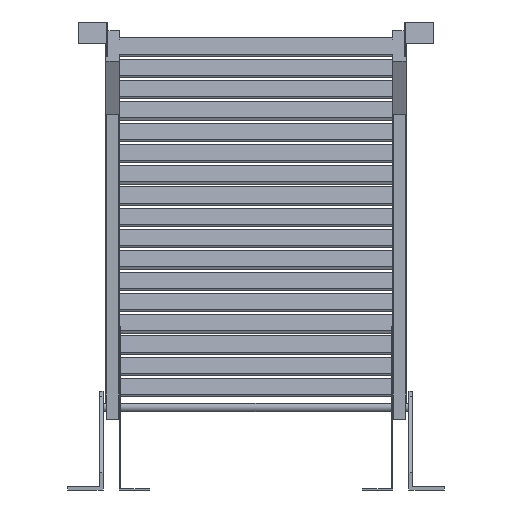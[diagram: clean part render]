
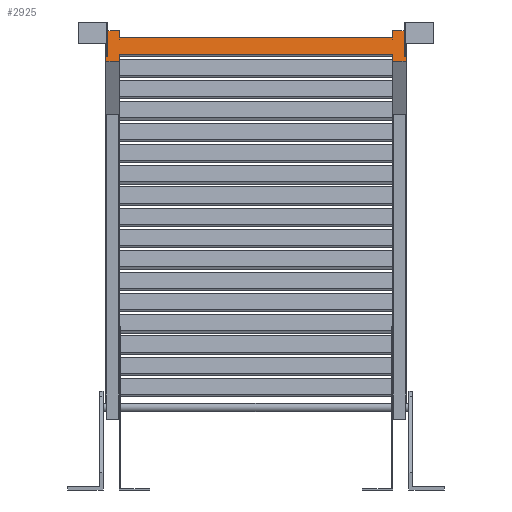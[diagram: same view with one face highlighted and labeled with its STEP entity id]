
A CAD part, front view. The second image highlights one B-rep face of the part: STEP entity #2925.
In plain terms, the highlighted planar face has unit normal (0, -0.99, 0.139).
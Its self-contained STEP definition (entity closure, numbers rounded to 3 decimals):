
#1899=DIRECTION('',(0.,0.139,0.99));
#1900=VECTOR('',#1899,13.5);
#1901=CARTESIAN_POINT('',(-250.,-4336.55,827.772));
#1902=LINE('',#1901,#1900);
#1903=DIRECTION('',(0.,-0.139,-0.99));
#1904=VECTOR('',#1903,13.5);
#1905=CARTESIAN_POINT('',(250.,-4334.671,841.141));
#1906=LINE('',#1905,#1904);
#1907=DIRECTION('',(-1.,0.,0.));
#1908=VECTOR('',#1907,25.);
#1909=CARTESIAN_POINT('',(275.,-4334.671,841.141));
#1910=LINE('',#1909,#1908);
#1911=DIRECTION('',(0.,0.139,0.99));
#1912=VECTOR('',#1911,57.);
#1913=CARTESIAN_POINT('',(275.,-4342.604,784.695));
#1914=LINE('',#1913,#1912);
#1915=DIRECTION('',(1.,0.,0.));
#1916=VECTOR('',#1915,25.);
#1917=CARTESIAN_POINT('',(250.,-4342.604,784.695));
#1918=LINE('',#1917,#1916);
#1919=DIRECTION('',(0.,-0.139,-0.99));
#1920=VECTOR('',#1919,13.5);
#1921=CARTESIAN_POINT('',(250.,-4340.725,798.064));
#1922=LINE('',#1921,#1920);
#1923=DIRECTION('',(0.,0.139,0.99));
#1924=VECTOR('',#1923,13.5);
#1925=CARTESIAN_POINT('',(-250.,-4342.604,784.695));
#1926=LINE('',#1925,#1924);
#1927=DIRECTION('',(1.,0.,0.));
#1928=VECTOR('',#1927,25.);
#1929=CARTESIAN_POINT('',(-275.,-4342.604,784.695));
#1930=LINE('',#1929,#1928);
#1931=DIRECTION('',(0.,-0.139,-0.99));
#1932=VECTOR('',#1931,57.);
#1933=CARTESIAN_POINT('',(-275.,-4334.671,841.141));
#1934=LINE('',#1933,#1932);
#1935=DIRECTION('',(-1.,0.,0.));
#1936=VECTOR('',#1935,25.);
#1937=CARTESIAN_POINT('',(-250.,-4334.671,841.141));
#1938=LINE('',#1937,#1936);
#1939=DIRECTION('',(1.,0.,0.));
#1940=VECTOR('',#1939,2.);
#1941=CARTESIAN_POINT('',(-273.,-4341.421,793.113));
#1942=LINE('',#1941,#1940);
#1943=DIRECTION('',(0.,0.139,0.99));
#1944=VECTOR('',#1943,40.);
#1945=CARTESIAN_POINT('',(-271.,-4341.421,793.113));
#1946=LINE('',#1945,#1944);
#1947=DIRECTION('',(1.,0.,0.));
#1948=VECTOR('',#1947,2.);
#1949=CARTESIAN_POINT('',(-273.,-4335.854,832.723));
#1950=LINE('',#1949,#1948);
#1951=DIRECTION('',(0.,0.139,0.99));
#1952=VECTOR('',#1951,40.);
#1953=CARTESIAN_POINT('',(-273.,-4341.421,793.113));
#1954=LINE('',#1953,#1952);
#1955=DIRECTION('',(1.,0.,0.));
#1956=VECTOR('',#1955,2.);
#1957=CARTESIAN_POINT('',(271.,-4341.421,793.113));
#1958=LINE('',#1957,#1956);
#1959=DIRECTION('',(0.,0.139,0.99));
#1960=VECTOR('',#1959,40.);
#1961=CARTESIAN_POINT('',(273.,-4341.421,793.113));
#1962=LINE('',#1961,#1960);
#1963=DIRECTION('',(1.,0.,0.));
#1964=VECTOR('',#1963,2.);
#1965=CARTESIAN_POINT('',(271.,-4335.854,832.723));
#1966=LINE('',#1965,#1964);
#1967=DIRECTION('',(0.,0.139,0.99));
#1968=VECTOR('',#1967,40.);
#1969=CARTESIAN_POINT('',(271.,-4341.421,793.113));
#1970=LINE('',#1969,#1968);
#2495=DIRECTION('',(1.,0.,0.));
#2496=VECTOR('',#2495,500.);
#2497=CARTESIAN_POINT('',(-250.,-4336.55,827.772));
#2498=LINE('',#2497,#2496);
#2499=DIRECTION('',(1.,0.,0.));
#2500=VECTOR('',#2499,500.);
#2501=CARTESIAN_POINT('',(-250.,-4340.725,798.064));
#2502=LINE('',#2501,#2500);
#2619=CARTESIAN_POINT('',(-250.,-4334.671,841.141));
#2620=CARTESIAN_POINT('',(-275.,-4334.671,841.141));
#2621=VERTEX_POINT('',#2619);
#2622=VERTEX_POINT('',#2620);
#2623=CARTESIAN_POINT('',(-275.,-4342.604,784.695));
#2624=CARTESIAN_POINT('',(-250.,-4342.604,784.695));
#2625=VERTEX_POINT('',#2623);
#2626=VERTEX_POINT('',#2624);
#2627=CARTESIAN_POINT('',(275.,-4342.604,784.695));
#2628=CARTESIAN_POINT('',(275.,-4334.671,841.141));
#2629=VERTEX_POINT('',#2627);
#2630=VERTEX_POINT('',#2628);
#2631=CARTESIAN_POINT('',(250.,-4342.604,784.695));
#2632=VERTEX_POINT('',#2631);
#2633=CARTESIAN_POINT('',(250.,-4334.671,841.141));
#2634=VERTEX_POINT('',#2633);
#2747=CARTESIAN_POINT('',(-250.,-4340.725,798.064));
#2749=VERTEX_POINT('',#2747);
#2751=CARTESIAN_POINT('',(-250.,-4336.55,827.772));
#2753=VERTEX_POINT('',#2751);
#2755=CARTESIAN_POINT('',(250.,-4340.725,798.064));
#2757=VERTEX_POINT('',#2755);
#2759=CARTESIAN_POINT('',(250.,-4336.55,827.772));
#2761=VERTEX_POINT('',#2759);
#2827=CARTESIAN_POINT('',(-273.,-4341.421,793.113));
#2828=CARTESIAN_POINT('',(-271.,-4341.421,793.113));
#2829=VERTEX_POINT('',#2827);
#2830=VERTEX_POINT('',#2828);
#2831=CARTESIAN_POINT('',(-273.,-4335.854,832.723));
#2832=CARTESIAN_POINT('',(-271.,-4335.854,832.723));
#2833=VERTEX_POINT('',#2831);
#2834=VERTEX_POINT('',#2832);
#2851=CARTESIAN_POINT('',(271.,-4341.421,793.113));
#2852=CARTESIAN_POINT('',(273.,-4341.421,793.113));
#2853=VERTEX_POINT('',#2851);
#2854=VERTEX_POINT('',#2852);
#2855=CARTESIAN_POINT('',(271.,-4335.854,832.723));
#2856=CARTESIAN_POINT('',(273.,-4335.854,832.723));
#2857=VERTEX_POINT('',#2855);
#2858=VERTEX_POINT('',#2856);
#2875=CARTESIAN_POINT('',(0.,-4366.637,613.691));
#2876=DIRECTION('',(0.,0.99,-0.139));
#2877=DIRECTION('',(1.,0.,0.));
#2878=AXIS2_PLACEMENT_3D('',#2875,#2876,#2877);
#2879=PLANE('',#2878);
#2881=ORIENTED_EDGE('',*,*,#2880,.F.);
#2883=ORIENTED_EDGE('',*,*,#2882,.T.);
#2885=ORIENTED_EDGE('',*,*,#2884,.F.);
#2887=ORIENTED_EDGE('',*,*,#2886,.F.);
#2889=ORIENTED_EDGE('',*,*,#2888,.F.);
#2891=ORIENTED_EDGE('',*,*,#2890,.F.);
#2893=ORIENTED_EDGE('',*,*,#2892,.F.);
#2895=ORIENTED_EDGE('',*,*,#2894,.F.);
#2897=ORIENTED_EDGE('',*,*,#2896,.F.);
#2899=ORIENTED_EDGE('',*,*,#2898,.F.);
#2901=ORIENTED_EDGE('',*,*,#2900,.F.);
#2903=ORIENTED_EDGE('',*,*,#2902,.F.);
#2904=EDGE_LOOP('',(#2881,#2883,#2885,#2887,#2889,#2891,#2893,#2895,#2897,#2899,
#2901,#2903));
#2905=FACE_OUTER_BOUND('',#2904,.F.);
#2907=ORIENTED_EDGE('',*,*,#2906,.T.);
#2909=ORIENTED_EDGE('',*,*,#2908,.T.);
#2911=ORIENTED_EDGE('',*,*,#2910,.F.);
#2913=ORIENTED_EDGE('',*,*,#2912,.F.);
#2914=EDGE_LOOP('',(#2907,#2909,#2911,#2913));
#2915=FACE_BOUND('',#2914,.F.);
#2917=ORIENTED_EDGE('',*,*,#2916,.T.);
#2919=ORIENTED_EDGE('',*,*,#2918,.T.);
#2921=ORIENTED_EDGE('',*,*,#2920,.F.);
#2922=ORIENTED_EDGE('',*,*,#2864,.F.);
#2923=EDGE_LOOP('',(#2917,#2919,#2921,#2922));
#2924=FACE_BOUND('',#2923,.F.);
#2864=EDGE_CURVE('',#2853,#2857,#1970,.T.);
#2880=EDGE_CURVE('',#2753,#2621,#1902,.T.);
#2882=EDGE_CURVE('',#2753,#2761,#2498,.T.);
#2884=EDGE_CURVE('',#2634,#2761,#1906,.T.);
#2886=EDGE_CURVE('',#2630,#2634,#1910,.T.);
#2888=EDGE_CURVE('',#2629,#2630,#1914,.T.);
#2890=EDGE_CURVE('',#2632,#2629,#1918,.T.);
#2892=EDGE_CURVE('',#2757,#2632,#1922,.T.);
#2894=EDGE_CURVE('',#2749,#2757,#2502,.T.);
#2896=EDGE_CURVE('',#2626,#2749,#1926,.T.);
#2898=EDGE_CURVE('',#2625,#2626,#1930,.T.);
#2900=EDGE_CURVE('',#2622,#2625,#1934,.T.);
#2902=EDGE_CURVE('',#2621,#2622,#1938,.T.);
#2906=EDGE_CURVE('',#2829,#2830,#1942,.T.);
#2908=EDGE_CURVE('',#2830,#2834,#1946,.T.);
#2910=EDGE_CURVE('',#2833,#2834,#1950,.T.);
#2912=EDGE_CURVE('',#2829,#2833,#1954,.T.);
#2916=EDGE_CURVE('',#2853,#2854,#1958,.T.);
#2918=EDGE_CURVE('',#2854,#2858,#1962,.T.);
#2920=EDGE_CURVE('',#2857,#2858,#1966,.T.);
#2925=ADVANCED_FACE('',(#2905,#2915,#2924),#2879,.F.);
